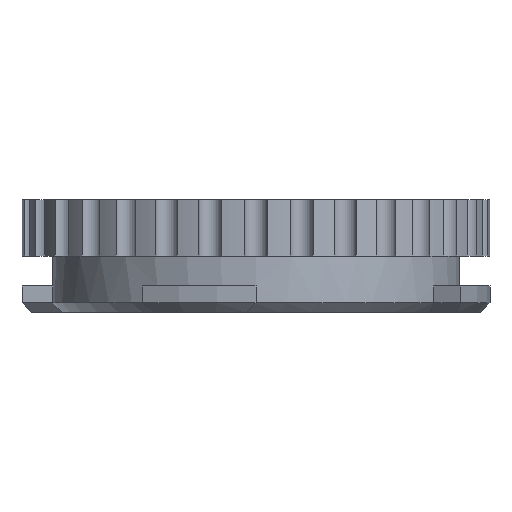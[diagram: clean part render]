
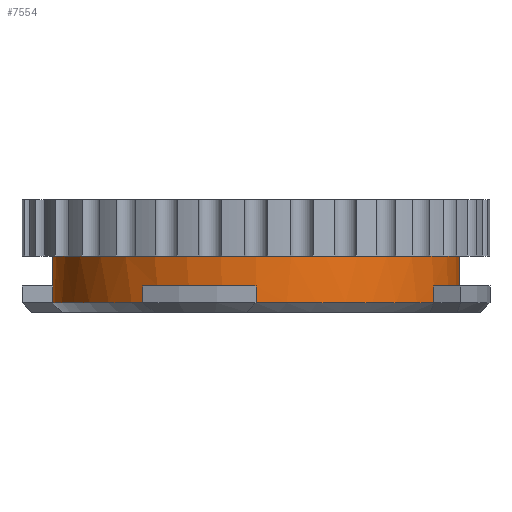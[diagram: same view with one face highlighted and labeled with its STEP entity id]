
A CAD part, front view. The second image highlights one B-rep face of the part: STEP entity #7554.
In plain terms, the highlighted cylindrical face has radius 13.787 mm (diameter 27.575 mm), a partial arc.
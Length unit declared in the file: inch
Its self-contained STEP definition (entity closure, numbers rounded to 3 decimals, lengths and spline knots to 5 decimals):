
#278 = DIRECTION ( 'NONE',  ( 0., 0., 1. ) ) ;
#634 = DIRECTION ( 'NONE',  ( 0., -1., 0. ) ) ;
#812 = EDGE_LOOP ( 'NONE', ( #8849, #20319, #22215, #23132, #3815, #7098, #11704, #15694, #4927, #17574, #23790 ) ) ;
#972 = EDGE_CURVE ( 'NONE', #10831, #5704, #4482, .T. ) ;
#1267 = CARTESIAN_POINT ( 'NONE',  ( 0.47476, -0.26316, 0.07 ) ) ;
#1268 = VERTEX_POINT ( 'NONE', #2011 ) ;
#1382 = CARTESIAN_POINT ( 'NONE',  ( -0.26316, -0.47476, 0.02461 ) ) ;
#1400 = EDGE_CURVE ( 'NONE', #14048, #5119, #22477, .T. ) ;
#1751 = CYLINDRICAL_SURFACE ( 'NONE', #5493, 0.54281 ) ;
#2011 = CARTESIAN_POINT ( 'NONE',  ( -0.26316, -0.47476, 0.07 ) ) ;
#2139 = LINE ( 'NONE', #4579, #4751 ) ;
#2481 = EDGE_CURVE ( 'NONE', #16991, #10831, #19584, .T. ) ;
#2795 = DIRECTION ( 'NONE',  ( 0., 0., -1. ) ) ;
#2801 = EDGE_CURVE ( 'NONE', #3659, #14048, #3009, .T. ) ;
#2982 = EDGE_CURVE ( 'NONE', #14451, #19588, #2139, .T. ) ;
#3009 = LINE ( 'NONE', #7657, #13155 ) ;
#3029 = DIRECTION ( 'NONE',  ( 0., 0., 1. ) ) ;
#3412 = AXIS2_PLACEMENT_3D ( 'NONE', #7701, #278, #15016 ) ;
#3547 = DIRECTION ( 'NONE',  ( 0., 0., 1. ) ) ;
#3659 = VERTEX_POINT ( 'NONE', #4370 ) ;
#3719 = LINE ( 'NONE', #16797, #22012 ) ;
#3815 = ORIENTED_EDGE ( 'NONE', *, *, #1400, .T. ) ;
#3891 = EDGE_CURVE ( 'NONE', #5119, #1268, #4434, .T. ) ;
#4342 = CARTESIAN_POINT ( 'NONE',  ( 0., 0., 0.07 ) ) ;
#4370 = CARTESIAN_POINT ( 'NONE',  ( -0.54281, 0., 0.07 ) ) ;
#4434 = LINE ( 'NONE', #11171, #8801 ) ;
#4450 = CARTESIAN_POINT ( 'NONE',  ( 0.54281, 0., 0.15 ) ) ;
#4482 = LINE ( 'NONE', #4450, #13483 ) ;
#4579 = CARTESIAN_POINT ( 'NONE',  ( 0., -0.54281, 0.15 ) ) ;
#4682 = AXIS2_PLACEMENT_3D ( 'NONE', #4342, #15379, #634 ) ;
#4751 = VECTOR ( 'NONE', #2795, 39.37008 ) ;
#4899 = DIRECTION ( 'NONE',  ( 1., 0., 0. ) ) ;
#4927 = ORIENTED_EDGE ( 'NONE', *, *, #11125, .T. ) ;
#5119 = VERTEX_POINT ( 'NONE', #1382 ) ;
#5220 = FACE_OUTER_BOUND ( 'NONE', #812, .T. ) ;
#5421 = DIRECTION ( 'NONE',  ( 0., 0., -1. ) ) ;
#5493 = AXIS2_PLACEMENT_3D ( 'NONE', #16380, #5421, #9074 ) ;
#5704 = VERTEX_POINT ( 'NONE', #19920 ) ;
#5886 = DIRECTION ( 'NONE',  ( 0., 0., -1. ) ) ;
#6184 = CARTESIAN_POINT ( 'NONE',  ( -0.54281, 0., 0.15 ) ) ;
#6890 = EDGE_CURVE ( 'NONE', #16991, #3659, #19472, .T. ) ;
#7098 = ORIENTED_EDGE ( 'NONE', *, *, #3891, .T. ) ;
#7554 = ADVANCED_FACE ( 'NONE', ( #5220 ), #1751, .T. ) ;
#7657 = CARTESIAN_POINT ( 'NONE',  ( -0.54281, 0., 0.15 ) ) ;
#7701 = CARTESIAN_POINT ( 'NONE',  ( 0., 0., 0.02461 ) ) ;
#7883 = CIRCLE ( 'NONE', #4682, 0.54281 ) ;
#7938 = DIRECTION ( 'NONE',  ( 0., 0., -1. ) ) ;
#8081 = DIRECTION ( 'NONE',  ( 0., 0., 1. ) ) ;
#8203 = CARTESIAN_POINT ( 'NONE',  ( 0., 0., 0.07 ) ) ;
#8801 = VECTOR ( 'NONE', #3547, 39.37008 ) ;
#8849 = ORIENTED_EDGE ( 'NONE', *, *, #972, .F. ) ;
#9074 = DIRECTION ( 'NONE',  ( -1., 0., 0. ) ) ;
#9164 = EDGE_CURVE ( 'NONE', #9225, #5704, #22028, .T. ) ;
#9225 = VERTEX_POINT ( 'NONE', #1267 ) ;
#9731 = VERTEX_POINT ( 'NONE', #14750 ) ;
#9963 = CIRCLE ( 'NONE', #3412, 0.54281 ) ;
#10831 = VERTEX_POINT ( 'NONE', #21276 ) ;
#11125 = EDGE_CURVE ( 'NONE', #19588, #9731, #9963, .T. ) ;
#11171 = CARTESIAN_POINT ( 'NONE',  ( -0.26316, -0.47476, 0.15 ) ) ;
#11704 = ORIENTED_EDGE ( 'NONE', *, *, #14004, .T. ) ;
#11843 = DIRECTION ( 'NONE',  ( 0., 0., -1. ) ) ;
#12073 = CARTESIAN_POINT ( 'NONE',  ( 0., -0.54281, 0.07 ) ) ;
#12092 = DIRECTION ( 'NONE',  ( 1., 0., 0. ) ) ;
#13155 = VECTOR ( 'NONE', #5886, 39.37008 ) ;
#13483 = VECTOR ( 'NONE', #7938, 39.37008 ) ;
#13507 = AXIS2_PLACEMENT_3D ( 'NONE', #13954, #3029, #4899 ) ;
#13954 = CARTESIAN_POINT ( 'NONE',  ( 0., 0., 0.02461 ) ) ;
#14004 = EDGE_CURVE ( 'NONE', #1268, #14451, #7883, .T. ) ;
#14048 = VERTEX_POINT ( 'NONE', #19062 ) ;
#14451 = VERTEX_POINT ( 'NONE', #12073 ) ;
#14750 = CARTESIAN_POINT ( 'NONE',  ( 0.47476, -0.26316, 0.02461 ) ) ;
#14762 = DIRECTION ( 'NONE',  ( 1., 0., 0. ) ) ;
#15016 = DIRECTION ( 'NONE',  ( 1., 0., 0. ) ) ;
#15379 = DIRECTION ( 'NONE',  ( 0., 0., 1. ) ) ;
#15694 = ORIENTED_EDGE ( 'NONE', *, *, #2982, .T. ) ;
#16380 = CARTESIAN_POINT ( 'NONE',  ( 0., 0., 0.15 ) ) ;
#16403 = CARTESIAN_POINT ( 'NONE',  ( 0., 0., 0.15 ) ) ;
#16797 = CARTESIAN_POINT ( 'NONE',  ( 0.47476, -0.26316, 0.15 ) ) ;
#16991 = VERTEX_POINT ( 'NONE', #21806 ) ;
#17574 = ORIENTED_EDGE ( 'NONE', *, *, #19442, .T. ) ;
#19062 = CARTESIAN_POINT ( 'NONE',  ( -0.54281, 0., 0.02461 ) ) ;
#19442 = EDGE_CURVE ( 'NONE', #9731, #9225, #3719, .T. ) ;
#19460 = CARTESIAN_POINT ( 'NONE',  ( 0., -0.54281, 0.02461 ) ) ;
#19472 = LINE ( 'NONE', #6184, #21199 ) ;
#19584 = CIRCLE ( 'NONE', #23918, 0.54281 ) ;
#19588 = VERTEX_POINT ( 'NONE', #19460 ) ;
#19920 = CARTESIAN_POINT ( 'NONE',  ( 0.54281, 0., 0.07 ) ) ;
#20319 = ORIENTED_EDGE ( 'NONE', *, *, #2481, .F. ) ;
#21199 = VECTOR ( 'NONE', #11843, 39.37008 ) ;
#21276 = CARTESIAN_POINT ( 'NONE',  ( 0.54281, 0., 0.15 ) ) ;
#21658 = AXIS2_PLACEMENT_3D ( 'NONE', #8203, #23208, #12092 ) ;
#21806 = CARTESIAN_POINT ( 'NONE',  ( -0.54281, 0., 0.15 ) ) ;
#22012 = VECTOR ( 'NONE', #8081, 39.37008 ) ;
#22028 = CIRCLE ( 'NONE', #21658, 0.54281 ) ;
#22215 = ORIENTED_EDGE ( 'NONE', *, *, #6890, .T. ) ;
#22316 = DIRECTION ( 'NONE',  ( 0., 0., 1. ) ) ;
#22477 = CIRCLE ( 'NONE', #13507, 0.54281 ) ;
#23132 = ORIENTED_EDGE ( 'NONE', *, *, #2801, .T. ) ;
#23208 = DIRECTION ( 'NONE',  ( 0., 0., 1. ) ) ;
#23790 = ORIENTED_EDGE ( 'NONE', *, *, #9164, .T. ) ;
#23918 = AXIS2_PLACEMENT_3D ( 'NONE', #16403, #22316, #14762 ) ;
